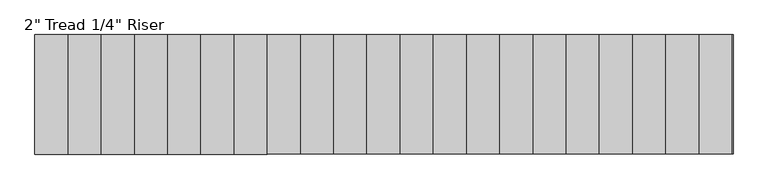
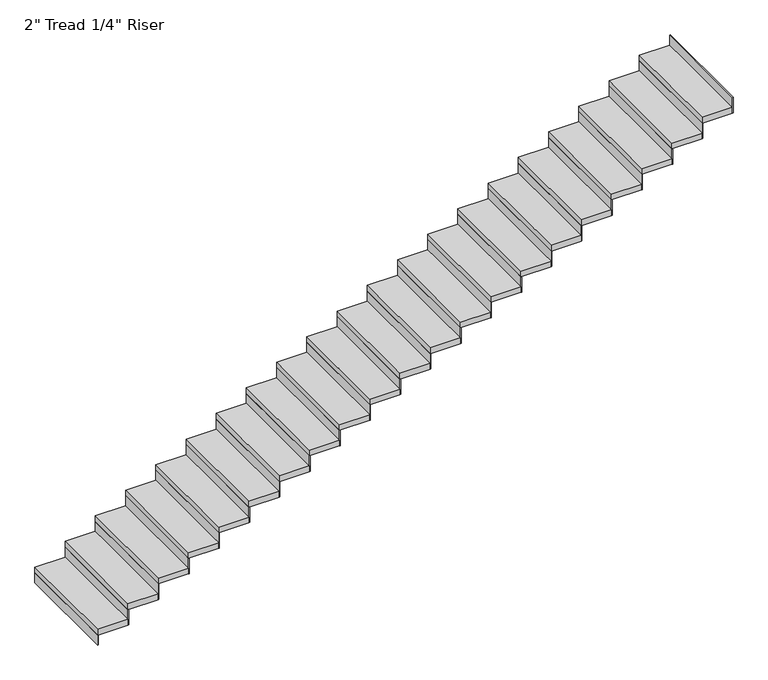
"""IFC4 building model written with IfcOpenShell, lengths in millimetres: stair flight geometry."""

from ifc_helpers import new_model, si_unit, frame, origin, origin_with_axes, place, context, project, spatial, polyline, outline, extrude, source, transform, mapped, element, save


def stair_flight_b4fc23ee(model_context):
    return source(origin(), model_context, "Body", "SweptSolid", [
        extrude(outline(polyline([(10185.2072927, -2400.7855758), (10178.8572927, -2400.7855758), (10178.8572927, -1486.3855758), (10185.2072927, -1486.3855758), (10185.2072927, -2400.7855758)])), origin_with_axes(), (0.0, 0.0, 1.0), 87.7454545),
        extrude(outline(polyline([(10432.8572927, -1486.3855758), (10432.8572927, -2400.7855758), (10178.8572927, -2400.7855758), (10178.8572927, -1486.3855758), (10432.8572927, -1486.3855758)])), frame((0.0, 0.0, 87.7454545), z_axis=(0.0, 0.0, 1.0), x_axis=(1.0, 0.0, 0.0)), (0.0, 0.0, 1.0), 50.8),
        extrude(outline(polyline([(10439.2072927, -2400.7855758), (10432.8572927, -2400.7855758), (10432.8572927, -1486.3855758), (10439.2072927, -1486.3855758), (10439.2072927, -2400.7855758)])), frame((0.0, 0.0, 87.7454545), z_axis=(0.0, 0.0, 1.0), x_axis=(1.0, 0.0, 0.0)), (0.0, 0.0, 1.0), 138.5454545),
        extrude(outline(polyline([(10686.8572927, -1486.3855758), (10686.8572927, -2400.7855758), (10432.8572927, -2400.7855758), (10432.8572927, -1486.3855758), (10686.8572927, -1486.3855758)])), frame((0.0, 0.0, 226.2909091), z_axis=(0.0, 0.0, 1.0), x_axis=(1.0, 0.0, 0.0)), (0.0, 0.0, 1.0), 50.8),
        extrude(outline(polyline([(10693.2072927, -2400.7855758), (10686.8572927, -2400.7855758), (10686.8572927, -1486.3855758), (10693.2072927, -1486.3855758), (10693.2072927, -2400.7855758)])), frame((0.0, 0.0, 226.2909091), z_axis=(0.0, 0.0, 1.0), x_axis=(1.0, 0.0, 0.0)), (0.0, 0.0, 1.0), 138.5454545),
        extrude(outline(polyline([(10940.8572927, -1486.3855758), (10940.8572927, -2400.7855758), (10686.8572927, -2400.7855758), (10686.8572927, -1486.3855758), (10940.8572927, -1486.3855758)])), frame((0.0, 0.0, 364.8363636), z_axis=(0.0, 0.0, 1.0), x_axis=(1.0, 0.0, 0.0)), (0.0, 0.0, 1.0), 50.8),
        extrude(outline(polyline([(10947.2072927, -2400.7855758), (10940.8572927, -2400.7855758), (10940.8572927, -1486.3855758), (10947.2072927, -1486.3855758), (10947.2072927, -2400.7855758)])), frame((0.0, 0.0, 364.8363636), z_axis=(0.0, 0.0, 1.0), x_axis=(1.0, 0.0, 0.0)), (0.0, 0.0, 1.0), 138.5454545),
        extrude(outline(polyline([(11194.8572927, -1486.3855758), (11194.8572927, -2400.7855758), (10940.8572927, -2400.7855758), (10940.8572927, -1486.3855758), (11194.8572927, -1486.3855758)])), frame((0.0, 0.0, 503.3818182), z_axis=(0.0, 0.0, 1.0), x_axis=(1.0, 0.0, 0.0)), (0.0, 0.0, 1.0), 50.8),
        extrude(outline(polyline([(11201.2072927, -2400.7855758), (11194.8572927, -2400.7855758), (11194.8572927, -1486.3855758), (11201.2072927, -1486.3855758), (11201.2072927, -2400.7855758)])), frame((0.0, 0.0, 503.3818182), z_axis=(0.0, 0.0, 1.0), x_axis=(1.0, 0.0, 0.0)), (0.0, 0.0, 1.0), 138.5454545),
        extrude(outline(polyline([(11448.8572927, -1486.3855758), (11448.8572927, -2400.7855758), (11194.8572927, -2400.7855758), (11194.8572927, -1486.3855758), (11448.8572927, -1486.3855758)])), frame((0.0, 0.0, 641.9272727), z_axis=(0.0, 0.0, 1.0), x_axis=(1.0, 0.0, 0.0)), (0.0, 0.0, 1.0), 50.8),
        extrude(outline(polyline([(11455.2072927, -2400.7855758), (11448.8572927, -2400.7855758), (11448.8572927, -1486.3855758), (11455.2072927, -1486.3855758), (11455.2072927, -2400.7855758)])), frame((0.0, 0.0, 641.9272727), z_axis=(0.0, 0.0, 1.0), x_axis=(1.0, 0.0, 0.0)), (0.0, 0.0, 1.0), 138.5454545),
        extrude(outline(polyline([(11702.8572927, -1486.3855758), (11702.8572927, -2400.7855758), (11448.8572927, -2400.7855758), (11448.8572927, -1486.3855758), (11702.8572927, -1486.3855758)])), frame((0.0, 0.0, 780.4727273), z_axis=(0.0, 0.0, 1.0), x_axis=(1.0, 0.0, 0.0)), (0.0, 0.0, 1.0), 50.8),
        extrude(outline(polyline([(11709.2072927, -2400.7855758), (11702.8572927, -2400.7855758), (11702.8572927, -1486.3855758), (11709.2072927, -1486.3855758), (11709.2072927, -2400.7855758)])), frame((0.0, 0.0, 780.4727273), z_axis=(0.0, 0.0, 1.0), x_axis=(1.0, 0.0, 0.0)), (0.0, 0.0, 1.0), 138.5454545),
        extrude(outline(polyline([(11956.8572927, -1486.3855758), (11956.8572927, -2400.7855758), (11702.8572927, -2400.7855758), (11702.8572927, -1486.3855758), (11956.8572927, -1486.3855758)])), frame((0.0, 0.0, 919.0181818), z_axis=(0.0, 0.0, 1.0), x_axis=(1.0, 0.0, 0.0)), (0.0, 0.0, 1.0), 50.8),
        extrude(outline(polyline([(11963.2072927, -2400.7855758), (11956.8572927, -2400.7855758), (11956.8572927, -1486.3855758), (11963.2072927, -1486.3855758), (11963.2072927, -2400.7855758)])), frame((0.0, 0.0, 919.0181818), z_axis=(0.0, 0.0, 1.0), x_axis=(1.0, 0.0, 0.0)), (0.0, 0.0, 1.0), 138.5454545),
        extrude(outline(polyline([(12210.8572927, -1486.3855758), (12210.8572927, -2400.7855758), (11956.8572927, -2400.7855758), (11956.8572927, -1486.3855758), (12210.8572927, -1486.3855758)])), frame((0.0, 0.0, 1057.5636364), z_axis=(0.0, 0.0, 1.0), x_axis=(1.0, 0.0, 0.0)), (0.0, 0.0, 1.0), 50.8),
        extrude(outline(polyline([(12217.2072927, -2400.7855758), (12210.8572927, -2400.7855758), (12210.8572927, -1486.3855758), (12217.2072927, -1486.3855758), (12217.2072927, -2400.7855758)])), frame((0.0, 0.0, 1057.5636364), z_axis=(0.0, 0.0, 1.0), x_axis=(1.0, 0.0, 0.0)), (0.0, 0.0, 1.0), 138.5454545),
        extrude(outline(polyline([(12464.8572927, -1486.3855758), (12464.8572927, -2400.7855758), (12210.8572927, -2400.7855758), (12210.8572927, -1486.3855758), (12464.8572927, -1486.3855758)])), frame((0.0, 0.0, 1196.1090909), z_axis=(0.0, 0.0, 1.0), x_axis=(1.0, 0.0, 0.0)), (0.0, 0.0, 1.0), 50.8),
        extrude(outline(polyline([(12471.2072927, -2400.7855758), (12464.8572927, -2400.7855758), (12464.8572927, -1486.3855758), (12471.2072927, -1486.3855758), (12471.2072927, -2400.7855758)])), frame((0.0, 0.0, 1196.1090909), z_axis=(0.0, 0.0, 1.0), x_axis=(1.0, 0.0, 0.0)), (0.0, 0.0, 1.0), 138.5454545),
        extrude(outline(polyline([(12718.8572927, -1486.3855758), (12718.8572927, -2400.7855758), (12464.8572927, -2400.7855758), (12464.8572927, -1486.3855758), (12718.8572927, -1486.3855758)])), frame((0.0, 0.0, 1334.6545455), z_axis=(0.0, 0.0, 1.0), x_axis=(1.0, 0.0, 0.0)), (0.0, 0.0, 1.0), 50.8),
        extrude(outline(polyline([(12725.2072927, -2400.7855758), (12718.8572927, -2400.7855758), (12718.8572927, -1486.3855758), (12725.2072927, -1486.3855758), (12725.2072927, -2400.7855758)])), frame((0.0, 0.0, 1334.6545455), z_axis=(0.0, 0.0, 1.0), x_axis=(1.0, 0.0, 0.0)), (0.0, 0.0, 1.0), 138.5454545),
        extrude(outline(polyline([(12972.8572927, -1486.3855758), (12972.8572927, -2400.7855758), (12718.8572927, -2400.7855758), (12718.8572927, -1486.3855758), (12972.8572927, -1486.3855758)])), frame((0.0, 0.0, 1473.2), z_axis=(0.0, 0.0, 1.0), x_axis=(1.0, 0.0, 0.0)), (0.0, 0.0, 1.0), 50.8),
        extrude(outline(polyline([(12979.2072927, -2400.7855758), (12972.8572927, -2400.7855758), (12972.8572927, -1486.3855758), (12979.2072927, -1486.3855758), (12979.2072927, -2400.7855758)])), frame((0.0, 0.0, 1473.2), z_axis=(0.0, 0.0, 1.0), x_axis=(1.0, 0.0, 0.0)), (0.0, 0.0, 1.0), 138.5454545),
        extrude(outline(polyline([(13226.8572927, -1486.3855758), (13226.8572927, -2400.7855758), (12972.8572927, -2400.7855758), (12972.8572927, -1486.3855758), (13226.8572927, -1486.3855758)])), frame((0.0, 0.0, 1611.7454545), z_axis=(0.0, 0.0, 1.0), x_axis=(1.0, 0.0, 0.0)), (0.0, 0.0, 1.0), 50.8),
        extrude(outline(polyline([(13233.2072927, -2400.7855758), (13226.8572927, -2400.7855758), (13226.8572927, -1486.3855758), (13233.2072927, -1486.3855758), (13233.2072927, -2400.7855758)])), frame((0.0, 0.0, 1611.7454545), z_axis=(0.0, 0.0, 1.0), x_axis=(1.0, 0.0, 0.0)), (0.0, 0.0, 1.0), 138.5454545),
        extrude(outline(polyline([(13480.8572927, -1486.3855758), (13480.8572927, -2400.7855758), (13226.8572927, -2400.7855758), (13226.8572927, -1486.3855758), (13480.8572927, -1486.3855758)])), frame((0.0, 0.0, 1750.2909091), z_axis=(0.0, 0.0, 1.0), x_axis=(1.0, 0.0, 0.0)), (0.0, 0.0, 1.0), 50.8),
        extrude(outline(polyline([(13487.2072927, -2400.7855758), (13480.8572927, -2400.7855758), (13480.8572927, -1486.3855758), (13487.2072927, -1486.3855758), (13487.2072927, -2400.7855758)])), frame((0.0, 0.0, 1750.2909091), z_axis=(0.0, 0.0, 1.0), x_axis=(1.0, 0.0, 0.0)), (0.0, 0.0, 1.0), 138.5454545),
        extrude(outline(polyline([(13734.8572927, -1486.3855758), (13734.8572927, -2400.7855758), (13480.8572927, -2400.7855758), (13480.8572927, -1486.3855758), (13734.8572927, -1486.3855758)])), frame((0.0, 0.0, 1888.8363636), z_axis=(0.0, 0.0, 1.0), x_axis=(1.0, 0.0, 0.0)), (0.0, 0.0, 1.0), 50.8),
        extrude(outline(polyline([(13741.2072927, -2400.7855758), (13734.8572927, -2400.7855758), (13734.8572927, -1486.3855758), (13741.2072927, -1486.3855758), (13741.2072927, -2400.7855758)])), frame((0.0, 0.0, 1888.8363636), z_axis=(0.0, 0.0, 1.0), x_axis=(1.0, 0.0, 0.0)), (0.0, 0.0, 1.0), 138.5454545),
        extrude(outline(polyline([(13988.8572927, -1486.3855758), (13988.8572927, -2400.7855758), (13734.8572927, -2400.7855758), (13734.8572927, -1486.3855758), (13988.8572927, -1486.3855758)])), frame((0.0, 0.0, 2027.3818182), z_axis=(0.0, 0.0, 1.0), x_axis=(1.0, 0.0, 0.0)), (0.0, 0.0, 1.0), 50.8),
        extrude(outline(polyline([(13995.2072927, -2400.7855758), (13988.8572927, -2400.7855758), (13988.8572927, -1486.3855758), (13995.2072927, -1486.3855758), (13995.2072927, -2400.7855758)])), frame((0.0, 0.0, 2027.3818182), z_axis=(0.0, 0.0, 1.0), x_axis=(1.0, 0.0, 0.0)), (0.0, 0.0, 1.0), 138.5454545),
        extrude(outline(polyline([(14242.8572927, -1486.3855758), (14242.8572927, -2400.7855758), (13988.8572927, -2400.7855758), (13988.8572927, -1486.3855758), (14242.8572927, -1486.3855758)])), frame((0.0, 0.0, 2165.9272727), z_axis=(0.0, 0.0, 1.0), x_axis=(1.0, 0.0, 0.0)), (0.0, 0.0, 1.0), 50.8),
        extrude(outline(polyline([(14249.2072927, -2400.7855758), (14242.8572927, -2400.7855758), (14242.8572927, -1486.3855758), (14249.2072927, -1486.3855758), (14249.2072927, -2400.7855758)])), frame((0.0, 0.0, 2165.9272727), z_axis=(0.0, 0.0, 1.0), x_axis=(1.0, 0.0, 0.0)), (0.0, 0.0, 1.0), 138.5454545),
        extrude(outline(polyline([(14496.8572927, -1486.3855758), (14496.8572927, -2400.7855758), (14242.8572927, -2400.7855758), (14242.8572927, -1486.3855758), (14496.8572927, -1486.3855758)])), frame((0.0, 0.0, 2304.4727273), z_axis=(0.0, 0.0, 1.0), x_axis=(1.0, 0.0, 0.0)), (0.0, 0.0, 1.0), 50.8),
        extrude(outline(polyline([(14503.2072927, -2400.7855758), (14496.8572927, -2400.7855758), (14496.8572927, -1486.3855758), (14503.2072927, -1486.3855758), (14503.2072927, -2400.7855758)])), frame((0.0, 0.0, 2304.4727273), z_axis=(0.0, 0.0, 1.0), x_axis=(1.0, 0.0, 0.0)), (0.0, 0.0, 1.0), 138.5454545),
        extrude(outline(polyline([(14750.8572927, -1486.3855758), (14750.8572927, -2400.7855758), (14496.8572927, -2400.7855758), (14496.8572927, -1486.3855758), (14750.8572927, -1486.3855758)])), frame((0.0, 0.0, 2443.0181818), z_axis=(0.0, 0.0, 1.0), x_axis=(1.0, 0.0, 0.0)), (0.0, 0.0, 1.0), 50.8),
        extrude(outline(polyline([(14757.2072927, -2400.7855758), (14750.8572927, -2400.7855758), (14750.8572927, -1486.3855758), (14757.2072927, -1486.3855758), (14757.2072927, -2400.7855758)])), frame((0.0, 0.0, 2443.0181818), z_axis=(0.0, 0.0, 1.0), x_axis=(1.0, 0.0, 0.0)), (0.0, 0.0, 1.0), 138.5454545),
        extrude(outline(polyline([(15004.8572927, -1486.3855758), (15004.8572927, -2400.7855758), (14750.8572927, -2400.7855758), (14750.8572927, -1486.3855758), (15004.8572927, -1486.3855758)])), frame((0.0, 0.0, 2581.5636364), z_axis=(0.0, 0.0, 1.0), x_axis=(1.0, 0.0, 0.0)), (0.0, 0.0, 1.0), 50.8),
        extrude(outline(polyline([(15011.2072927, -2400.7855758), (15004.8572927, -2400.7855758), (15004.8572927, -1486.3855758), (15011.2072927, -1486.3855758), (15011.2072927, -2400.7855758)])), frame((0.0, 0.0, 2581.5636364), z_axis=(0.0, 0.0, 1.0), x_axis=(1.0, 0.0, 0.0)), (0.0, 0.0, 1.0), 138.5454545),
        extrude(outline(polyline([(15258.8572927, -1486.3855758), (15258.8572927, -2400.7855758), (15004.8572927, -2400.7855758), (15004.8572927, -1486.3855758), (15258.8572927, -1486.3855758)])), frame((0.0, 0.0, 2720.1090909), z_axis=(0.0, 0.0, 1.0), x_axis=(1.0, 0.0, 0.0)), (0.0, 0.0, 1.0), 50.8),
        extrude(outline(polyline([(15265.2072927, -2400.7855758), (15258.8572927, -2400.7855758), (15258.8572927, -1486.3855758), (15265.2072927, -1486.3855758), (15265.2072927, -2400.7855758)])), frame((0.0, 0.0, 2720.1090909), z_axis=(0.0, 0.0, 1.0), x_axis=(1.0, 0.0, 0.0)), (0.0, 0.0, 1.0), 138.5454545),
        extrude(outline(polyline([(15519.2072927, -2400.7855758), (15512.8572927, -2400.7855758), (15512.8572927, -1486.3855758), (15519.2072927, -1486.3855758), (15519.2072927, -2400.7855758)])), frame((0.0, 0.0, 2858.6545455), z_axis=(0.0, 0.0, 1.0), x_axis=(1.0, 0.0, 0.0)), (0.0, 0.0, 1.0), 138.5454545),
        extrude(outline(polyline([(15512.8572927, -1486.3855758), (15512.8572927, -2400.7855758), (15258.8572927, -2400.7855758), (15258.8572927, -1486.3855758), (15512.8572927, -1486.3855758)])), frame((0.0, 0.0, 2858.6545455), z_axis=(0.0, 0.0, 1.0), x_axis=(1.0, 0.0, 0.0)), (0.0, 0.0, 1.0), 50.8),
    ])


if __name__ == "__main__":
    model = new_model("IFC4")
    model_context = context("Model", 3, world=origin())
    ifc_project = project(units=[si_unit("LENGTHUNIT", "METRE", prefix="MILLI")], contexts=[model_context])
    site = spatial("IfcSite", under=ifc_project)
    building = spatial("IfcBuilding", under=site)
    placement = place(None, origin())
    stair_flight_shape = stair_flight_b4fc23ee(model_context)
    element("IfcStairFlight", 1, ObjectType="2\" Tread 1/4\" Riser", at=placement, inside=building, context=model_context, shape_type="MappedRepresentation", body=[
        mapped(stair_flight_shape, transform((0.0, 0.0, 0.0), x_axis=(1.0, 0.0, 0.0), y_axis=(0.0, 1.0, 0.0), z_axis=(0.0, 0.0, 1.0))),
    ])
    save(model, "model.ifc")
